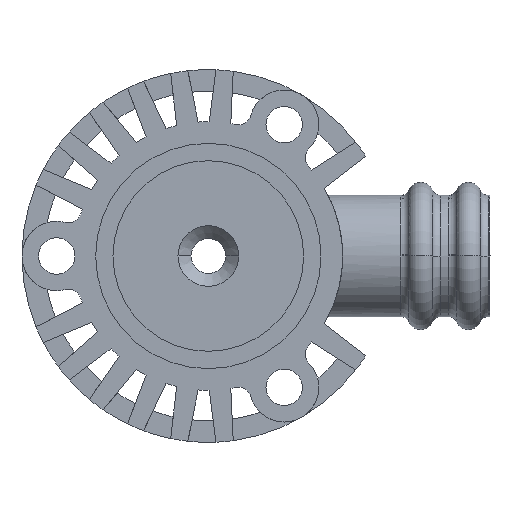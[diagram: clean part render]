
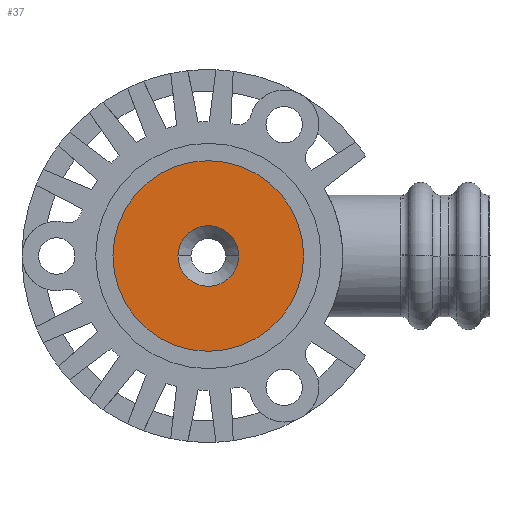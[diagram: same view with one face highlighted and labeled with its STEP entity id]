
A CAD part, front view. The second image highlights one B-rep face of the part: STEP entity #37.
In plain terms, the highlighted planar face has unit normal (0, -1, 0).
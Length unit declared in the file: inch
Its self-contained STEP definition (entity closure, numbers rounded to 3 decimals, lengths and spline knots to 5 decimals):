
#37 = ADVANCED_FACE ( 'NONE', ( #204, #4319 ), #246, .F. ) ;
#103 = ORIENTED_EDGE ( 'NONE', *, *, #5898, .T. ) ;
#140 = VERTEX_POINT ( 'NONE', #4507 ) ;
#204 = FACE_BOUND ( 'NONE', #3142, .T. ) ;
#246 = PLANE ( 'NONE',  #845 ) ;
#462 = ORIENTED_EDGE ( 'NONE', *, *, #1025, .F. ) ;
#622 = DIRECTION ( 'NONE',  ( 1., 0., 0. ) ) ;
#774 = DIRECTION ( 'NONE',  ( 0., -1., 0. ) ) ;
#845 = AXIS2_PLACEMENT_3D ( 'NONE', #3818, #7387, #4938 ) ;
#941 = CARTESIAN_POINT ( 'NONE',  ( -0.4334, 0.1182, 0. ) ) ;
#1025 = EDGE_CURVE ( 'NONE', #140, #1154, #4616, .T. ) ;
#1154 = VERTEX_POINT ( 'NONE', #941 ) ;
#2619 = ORIENTED_EDGE ( 'NONE', *, *, #2748, .T. ) ;
#2748 = EDGE_CURVE ( 'NONE', #6573, #3202, #6261, .T. ) ;
#2858 = CARTESIAN_POINT ( 'NONE',  ( -0.1379, 0.1182, 0. ) ) ;
#3142 = EDGE_LOOP ( 'NONE', ( #2619, #7106 ) ) ;
#3165 = CIRCLE ( 'NONE', #6274, 0.1379 ) ;
#3202 = VERTEX_POINT ( 'NONE', #2858 ) ;
#3594 = CARTESIAN_POINT ( 'NONE',  ( 0., 0.1182, 0. ) ) ;
#3818 = CARTESIAN_POINT ( 'NONE',  ( 0., 0.1182, 0. ) ) ;
#3905 = AXIS2_PLACEMENT_3D ( 'NONE', #7328, #6057, #6782 ) ;
#4319 = FACE_OUTER_BOUND ( 'NONE', #5148, .T. ) ;
#4369 = CARTESIAN_POINT ( 'NONE',  ( 0.1379, 0.1182, 0. ) ) ;
#4441 = DIRECTION ( 'NONE',  ( 0., 1., 0. ) ) ;
#4447 = CARTESIAN_POINT ( 'NONE',  ( 0., 0.1182, 0. ) ) ;
#4507 = CARTESIAN_POINT ( 'NONE',  ( 0.4334, 0.1182, 0. ) ) ;
#4616 = CIRCLE ( 'NONE', #6225, 0.4334 ) ;
#4892 = CIRCLE ( 'NONE', #3905, 0.4334 ) ;
#4938 = DIRECTION ( 'NONE',  ( 1., 0., 0. ) ) ;
#5148 = EDGE_LOOP ( 'NONE', ( #103, #462 ) ) ;
#5151 = AXIS2_PLACEMENT_3D ( 'NONE', #6847, #4441, #7435 ) ;
#5898 = EDGE_CURVE ( 'NONE', #140, #1154, #4892, .T. ) ;
#5965 = DIRECTION ( 'NONE',  ( 0., 1., 0. ) ) ;
#6057 = DIRECTION ( 'NONE',  ( 0., -1., 0. ) ) ;
#6225 = AXIS2_PLACEMENT_3D ( 'NONE', #3594, #5965, #622 ) ;
#6261 = CIRCLE ( 'NONE', #5151, 0.1379 ) ;
#6274 = AXIS2_PLACEMENT_3D ( 'NONE', #4447, #774, #6815 ) ;
#6573 = VERTEX_POINT ( 'NONE', #4369 ) ;
#6590 = EDGE_CURVE ( 'NONE', #6573, #3202, #3165, .T. ) ;
#6782 = DIRECTION ( 'NONE',  ( 1., 0., 0. ) ) ;
#6815 = DIRECTION ( 'NONE',  ( 1., 0., 0. ) ) ;
#6847 = CARTESIAN_POINT ( 'NONE',  ( 0., 0.1182, 0. ) ) ;
#7106 = ORIENTED_EDGE ( 'NONE', *, *, #6590, .F. ) ;
#7328 = CARTESIAN_POINT ( 'NONE',  ( 0., 0.1182, 0. ) ) ;
#7387 = DIRECTION ( 'NONE',  ( 0., 1., 0. ) ) ;
#7435 = DIRECTION ( 'NONE',  ( 1., 0., 0. ) ) ;
